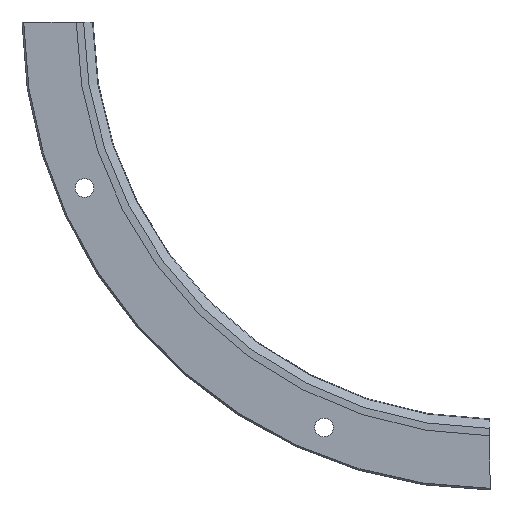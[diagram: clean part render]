
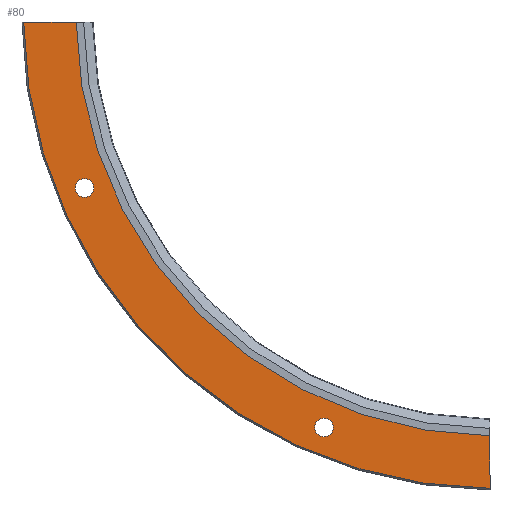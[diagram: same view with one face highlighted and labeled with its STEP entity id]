
A CAD part, front view. The second image highlights one B-rep face of the part: STEP entity #80.
In plain terms, the highlighted planar face has unit normal (0, -1, 0).
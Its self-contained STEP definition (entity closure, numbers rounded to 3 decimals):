
#80=ADVANCED_FACE('',(#111,#112,#113),#114,.T.);
#111=FACE_OUTER_BOUND('',#167,.T.);
#112=FACE_BOUND('',#168,.T.);
#113=FACE_BOUND('',#169,.T.);
#114=PLANE('',#170);
#167=EDGE_LOOP('',(#248,#249,#250,#251));
#168=EDGE_LOOP('',(#252,#253));
#169=EDGE_LOOP('',(#254,#255));
#170=AXIS2_PLACEMENT_3D('',#256,#257,#258);
#248=ORIENTED_EDGE('',*,*,#434,.F.);
#249=ORIENTED_EDGE('',*,*,#435,.T.);
#250=ORIENTED_EDGE('',*,*,#436,.F.);
#251=ORIENTED_EDGE('',*,*,#437,.F.);
#252=ORIENTED_EDGE('',*,*,#438,.T.);
#253=ORIENTED_EDGE('',*,*,#430,.T.);
#254=ORIENTED_EDGE('',*,*,#439,.T.);
#255=ORIENTED_EDGE('',*,*,#422,.T.);
#256=CARTESIAN_POINT('',(-138.5,-9.825,0.0));
#257=DIRECTION('',(0.0,-1.0,0.0));
#258=DIRECTION('',(0.0,0.0,-1.0));
#422=EDGE_CURVE('',#493,#494,#495,.T.);
#430=EDGE_CURVE('',#509,#510,#511,.T.);
#434=EDGE_CURVE('',#517,#518,#519,.T.);
#435=EDGE_CURVE('',#517,#520,#521,.T.);
#436=EDGE_CURVE('',#522,#520,#523,.T.);
#437=EDGE_CURVE('',#518,#522,#524,.T.);
#438=EDGE_CURVE('',#510,#509,#525,.T.);
#439=EDGE_CURVE('',#494,#493,#526,.T.);
#493=VERTEX_POINT('',#610);
#494=VERTEX_POINT('',#611);
#495=CIRCLE('',#612,2.75);
#509=VERTEX_POINT('',#630);
#510=VERTEX_POINT('',#631);
#511=CIRCLE('',#632,2.75);
#517=VERTEX_POINT('',#640);
#518=VERTEX_POINT('',#641);
#519=LINE('',#642,#643);
#520=VERTEX_POINT('',#644);
#521=CIRCLE('',#645,123.0);
#522=VERTEX_POINT('',#646);
#523=LINE('',#647,#648);
#524=CIRCLE('',#649,138.5);
#525=CIRCLE('',#650,2.75);
#526=CIRCLE('',#651,2.75);
#610=CARTESIAN_POINT('',(-49.94,-9.825,-123.316));
#611=CARTESIAN_POINT('',(-49.94,-9.825,-117.816));
#612=AXIS2_PLACEMENT_3D('',#767,#768,#769);
#630=CARTESIAN_POINT('',(-120.566,-9.825,-52.69));
#631=CARTESIAN_POINT('',(-120.566,-9.825,-47.19));
#632=AXIS2_PLACEMENT_3D('',#783,#784,#785);
#640=CARTESIAN_POINT('',(-1.,-9.825,-122.996));
#641=CARTESIAN_POINT('',(-1.,-9.825,-138.496));
#642=CARTESIAN_POINT('',(-1.,-9.825,-999.999));
#643=VECTOR('',#791,1000.0);
#644=CARTESIAN_POINT('',(-122.996,-9.825,-1.));
#645=AXIS2_PLACEMENT_3D('',#792,#793,#794);
#646=CARTESIAN_POINT('',(-138.496,-9.825,-1.));
#647=CARTESIAN_POINT('',(-999.999,-9.825,-1.));
#648=VECTOR('',#795,1000.0);
#649=AXIS2_PLACEMENT_3D('',#796,#797,#798);
#650=AXIS2_PLACEMENT_3D('',#799,#800,#801);
#651=AXIS2_PLACEMENT_3D('',#802,#803,#804);
#767=CARTESIAN_POINT('',(-49.94,-9.825,-120.566));
#768=DIRECTION('',(-0.0,1.0,0.0));
#769=DIRECTION('',(0.0,0.0,1.0));
#783=CARTESIAN_POINT('',(-120.566,-9.825,-49.94));
#784=DIRECTION('',(-0.0,1.0,0.0));
#785=DIRECTION('',(0.0,0.0,1.0));
#791=DIRECTION('',(0.,-0.0,-1.0));
#792=CARTESIAN_POINT('',(0.0,-9.825,0.0));
#793=DIRECTION('',(-0.0,1.0,0.0));
#794=DIRECTION('',(0.0,0.0,1.0));
#795=DIRECTION('',(1.0,0.0,0.0));
#796=CARTESIAN_POINT('',(0.0,-9.825,0.0));
#797=DIRECTION('',(-0.0,1.0,0.0));
#798=DIRECTION('',(0.0,0.0,1.0));
#799=CARTESIAN_POINT('',(-120.566,-9.825,-49.94));
#800=DIRECTION('',(-0.0,1.0,0.0));
#801=DIRECTION('',(0.0,0.0,1.0));
#802=CARTESIAN_POINT('',(-49.94,-9.825,-120.566));
#803=DIRECTION('',(-0.0,1.0,0.0));
#804=DIRECTION('',(0.0,0.0,1.0));
